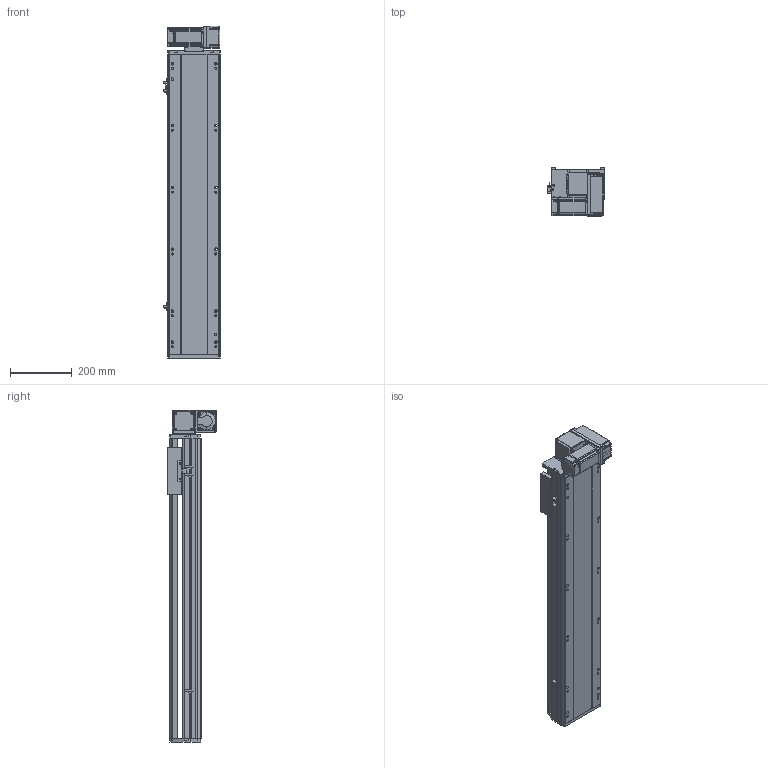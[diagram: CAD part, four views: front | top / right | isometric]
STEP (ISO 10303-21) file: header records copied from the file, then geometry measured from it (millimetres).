
FILE_DESCRIPTION (( 'STEP AP214' ), '1' );
FILE_NAME ('RTB17S-XX-700-RM-M40-C4.STEP', '2025-12-11T08:13:02', ( '' ), ( '' ), 'SwSTEP 2.0', 'SolidWorks 2018', '' );
FILE_SCHEMA (( 'AUTOMOTIVE_DESIGN' ));
Length unit declared in the file: millimetre
Products named in the file (14): RTB14-L-018P^RTB17S-RM-々湍釱蚾饜-400W_RTB17S-XX-XX-RM-M40-C4; RTB14-L-017P^RTB17S-RM-々湍釱蚾饜-400W_RTB17S-XX-XX-RM-M40-C4; 400W侜督萇儂^RTB17S-XX-XX-RM-M40-C4; OMRON EE-SX672 传感器^RTB17S-XX-XX-RM-M40-C4; RTB17S-L-004佪裝蹟譫蟀諉釱^RTB17S-XX-XX-RM-M40-C4; RTB17S-RM-々湍釱蚾饜-400W^RTB17S-XX-XX-RM-M40-C4; RTB17S-L-014-T20--々湍釱^RTB17S-RM-々湍釱蚾饜-400W_RTB17S-XX-XX-RM-M40-C4; RTB17S-L-001耜醱啣^RTB17S-XX-XX-RM-M40-C4; RTB17-R-011菁釱^RTB17S-XX-XX-RM-M40-C4; RTB14-L-005P--轴承塑胶压盖^RTB17S-RM-皮带座装配-400W_RTB17S-XX-XX-RM-M40-C4; RTB17S-L-007奻裔^RTB17S-XX-XX-RM-M40-C4; RTH13-BL-012覜茼え俋离^RTB17S-XX-XX-RM-M40-C4; RTB17S-XX-700-RM-M40-C4; RTB14-L-008-M20--萇儂啣^RTB17S-RM-々湍釱蚾饜-400W_RTB17S-XX-XX-RM-M40-C4
Assembly tree (16 placements, depth 3):
  RTB17S-XX-700-RM-M40-C4
    RTB17-R-011菁釱^RTB17S-XX-XX-RM-M40-C4
    RTB17S-L-007奻裔^RTB17S-XX-XX-RM-M40-C4
    OMRON EE-SX672 传感器^RTB17S-XX-XX-RM-M40-C4  x3
    RTB17S-L-001耜醱啣^RTB17S-XX-XX-RM-M40-C4
    400W侜督萇儂^RTB17S-XX-XX-RM-M40-C4
    RTB17S-L-004佪裝蹟譫蟀諉釱^RTB17S-XX-XX-RM-M40-C4
    RTH13-BL-012覜茼え俋离^RTB17S-XX-XX-RM-M40-C4
    RTB17S-RM-々湍釱蚾饜-400W^RTB17S-XX-XX-RM-M40-C4
      RTB17S-L-014-T20--々湍釱^RTB17S-RM-々湍釱蚾饜-400W_RTB17S-XX-XX-RM-M40-C4
      RTB14-L-005P--轴承塑胶压盖^RTB17S-RM-皮带座装配-400W_RTB17S-XX-XX-RM-M40-C4
      RTB14-L-008-M20--萇儂啣^RTB17S-RM-々湍釱蚾饜-400W_RTB17S-XX-XX-RM-M40-C4
      RTB14-L-017P^RTB17S-RM-々湍釱蚾饜-400W_RTB17S-XX-XX-RM-M40-C4  x2
      RTB14-L-018P^RTB17S-RM-々湍釱蚾饜-400W_RTB17S-XX-XX-RM-M40-C4
Bounding box: 183.5 x 156.5 x 1072.5 mm (x, y, z)
Volume: 9925274.2 mm3; surface area: 1232176.7 mm2
Topology: 15 solids, 15 shells, 2189 faces, 6033 edges, 3933 vertices
Faces by surface type: plane 1066, cylinder 675, bspline 301, cone 139, torus 8
Entity records: 61865 total; most frequent: CARTESIAN_POINT 17238, ORIENTED_EDGE 8910, DIRECTION 8306, EDGE_CURVE 4455, VERTEX_POINT 2921, AXIS2_PLACEMENT_3D 2851, LINE 2604, VECTOR 2604
